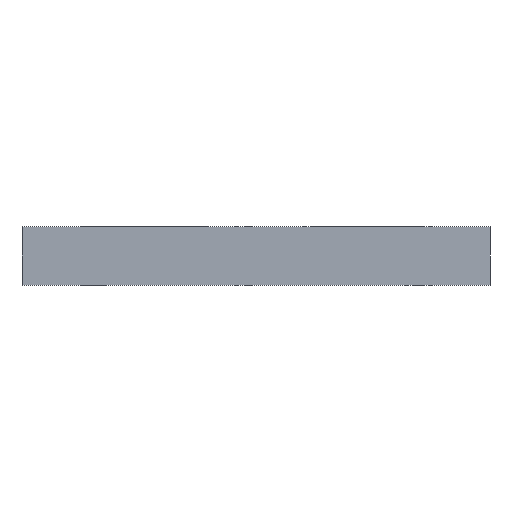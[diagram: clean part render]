
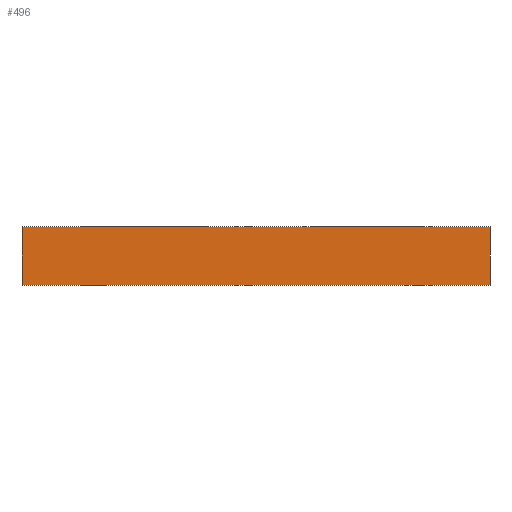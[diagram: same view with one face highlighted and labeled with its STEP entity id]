
A CAD part, front view. The second image highlights one B-rep face of the part: STEP entity #496.
In plain terms, the highlighted planar face has unit normal (0, -1, 0).
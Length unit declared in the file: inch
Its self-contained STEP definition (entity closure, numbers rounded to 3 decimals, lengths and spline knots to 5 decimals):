
#50 = EDGE_CURVE ( 'NONE', #653, #661, #763, .T. ) ;
#52 = EDGE_CURVE ( 'NONE', #638, #653, #815, .T. ) ;
#55 = EDGE_CURVE ( 'NONE', #645, #661, #770, .T. ) ;
#67 = EDGE_CURVE ( 'NONE', #638, #645, #840, .T. ) ;
#127 = AXIS2_PLACEMENT_3D ( 'NONE', #368, #378, #404 ) ;
#230 = CARTESIAN_POINT ( 'NONE',  ( 0., 0., 0. ) ) ;
#232 = CARTESIAN_POINT ( 'NONE',  ( 0., 0., 0.345 ) ) ;
#246 = CARTESIAN_POINT ( 'NONE',  ( 2.75, 0., 0.345 ) ) ;
#249 = DIRECTION ( 'NONE',  ( 0., 0., -1. ) ) ;
#259 = DIRECTION ( 'NONE',  ( 0., 0., -1. ) ) ;
#261 = DIRECTION ( 'NONE',  ( 1., 0., 0. ) ) ;
#283 = DIRECTION ( 'NONE',  ( 1., 0., 0. ) ) ;
#301 = CARTESIAN_POINT ( 'NONE',  ( 0., 0., 0.345 ) ) ;
#368 = CARTESIAN_POINT ( 'NONE',  ( 0., 0., 0.345 ) ) ;
#378 = DIRECTION ( 'NONE',  ( 0., 1., 0. ) ) ;
#383 = PLANE ( 'NONE',  #127 ) ;
#390 = CARTESIAN_POINT ( 'NONE',  ( 2.75, 0., 0.345 ) ) ;
#394 = CARTESIAN_POINT ( 'NONE',  ( 0., 0., 0.345 ) ) ;
#395 = CARTESIAN_POINT ( 'NONE',  ( 0., 0., 0. ) ) ;
#404 = DIRECTION ( 'NONE',  ( 0., 0., 1. ) ) ;
#429 = CARTESIAN_POINT ( 'NONE',  ( 2.75, 0., 0. ) ) ;
#496 = ADVANCED_FACE ( 'NONE', ( #847 ), #383, .F. ) ;
#524 = ORIENTED_EDGE ( 'NONE', *, *, #67, .F. ) ;
#536 = ORIENTED_EDGE ( 'NONE', *, *, #52, .T. ) ;
#548 = ORIENTED_EDGE ( 'NONE', *, *, #55, .F. ) ;
#554 = ORIENTED_EDGE ( 'NONE', *, *, #50, .T. ) ;
#585 = EDGE_LOOP ( 'NONE', ( #554, #548, #524, #536 ) ) ;
#638 = VERTEX_POINT ( 'NONE', #394 ) ;
#645 = VERTEX_POINT ( 'NONE', #390 ) ;
#653 = VERTEX_POINT ( 'NONE', #395 ) ;
#661 = VERTEX_POINT ( 'NONE', #429 ) ;
#763 = LINE ( 'NONE', #230, #769 ) ;
#769 = VECTOR ( 'NONE', #261, 39.37008 ) ;
#770 = LINE ( 'NONE', #246, #780 ) ;
#779 = VECTOR ( 'NONE', #259, 39.37008 ) ;
#780 = VECTOR ( 'NONE', #249, 39.37008 ) ;
#815 = LINE ( 'NONE', #232, #779 ) ;
#840 = LINE ( 'NONE', #301, #860 ) ;
#847 = FACE_OUTER_BOUND ( 'NONE', #585, .T. ) ;
#860 = VECTOR ( 'NONE', #283, 39.37008 ) ;
